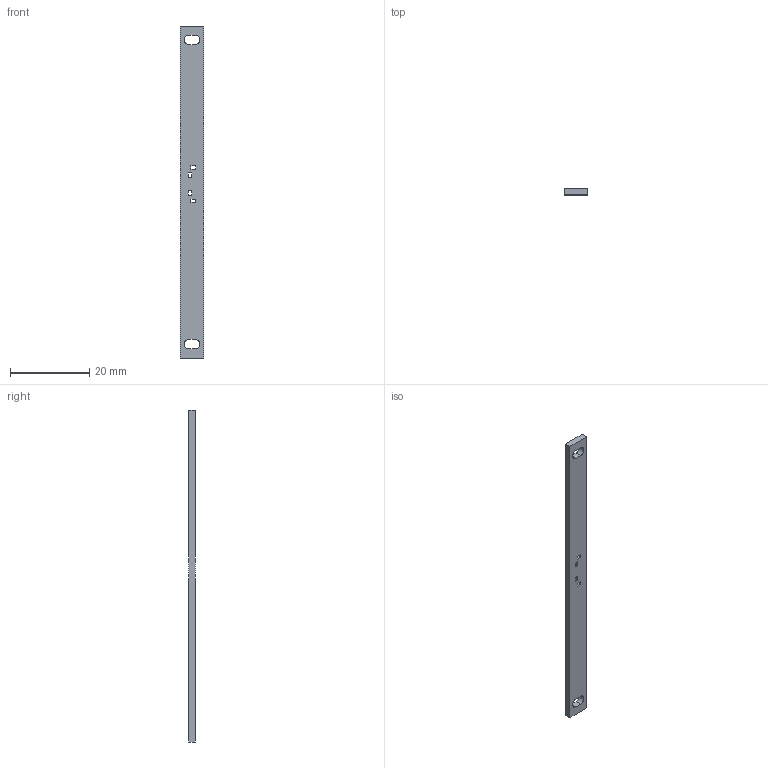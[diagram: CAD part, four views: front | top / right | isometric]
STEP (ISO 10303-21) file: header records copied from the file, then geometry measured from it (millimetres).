
FILE_DESCRIPTION(('Open CASCADE Model'),'2;1');
FILE_NAME('carrier_left_ptt_fr4_handwired','2026-09-08T13:43:18',( 'Author'),('Open CASCADE'),'Open CASCADE STEP processor 7.8', 'build123d','Unknown');
FILE_SCHEMA(('AUTOMOTIVE_DESIGN { 1 0 10303 214 1 1 1 1 }'));
Length unit declared in the file: millimetre
Products named in the file (2): =>[0:1:1:2]; carrier_left_ptt_fr4_handwired
Assembly tree (1 placements, depth 2):
  =>[0:1:1:2]
    carrier_left_ptt_fr4_handwired
Bounding box: 6 x 1.6 x 84 mm (x, y, z)
Volume: 773.5 mm3; surface area: 1314.8 mm2
Topology: 1 solids, 1 shells, 30 faces, 84 edges, 56 vertices
Faces by surface type: plane 26, cylinder 4
Entity records: 2100 total; most frequent: CARTESIAN_POINT 340, DIRECTION 324, LINE 236, VECTOR 236, ORIENTED_EDGE 168, PCURVE 168, DEFINITIONAL_REPRESENTATION 168, EDGE_CURVE 84
